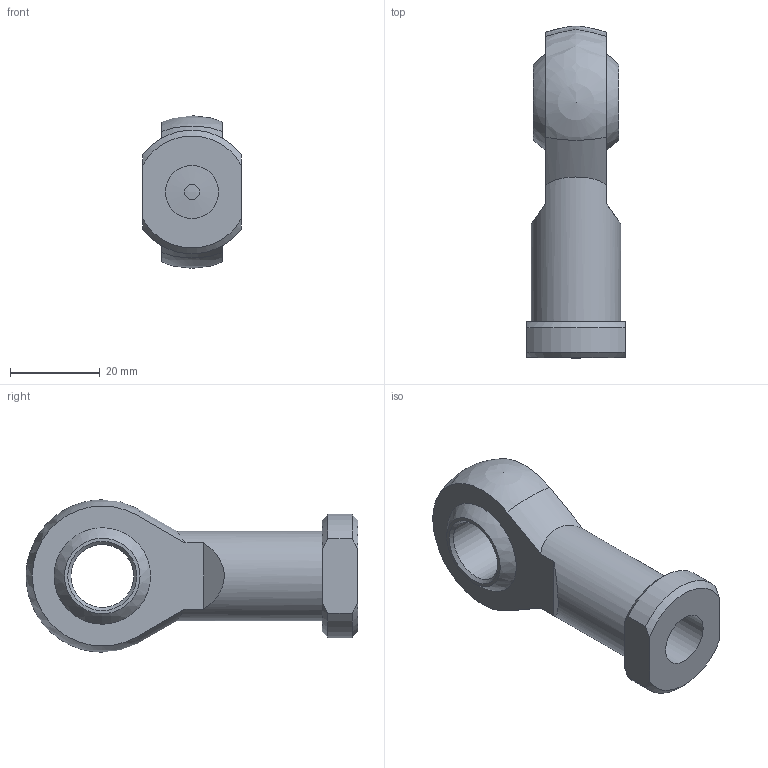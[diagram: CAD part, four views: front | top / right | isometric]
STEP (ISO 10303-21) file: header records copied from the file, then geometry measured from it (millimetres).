
FILE_DESCRIPTION(/* description */ ('Unknown'),/* implementation_level */ '2;1');
FILE_NAME(/* name */ 'WK40_WK50_J',/* time_stamp */ '2026-07-17T16:40:10+08:00',/* author */ ('Unknown'),/* organization */ ('Unknown'),/* preprocessor_version */ 'ST-DEVELOPER v16.7',/* originating_system */ 'DEX',/* authorisation */ $);
FILE_SCHEMA (('CONFIG_CONTROL_DESIGN'));
Length unit declared in the file: millimetre
Products named in the file (1): WK40_WK50_J
Bounding box: 22 x 74 x 34 mm (x, y, z)
Volume: 21440.9 mm3; surface area: 8059.9 mm2
Topology: 1 solids, 1 shells, 29 faces, 66 edges, 44 vertices
Faces by surface type: plane 10, cylinder 8, cone 7, sphere 4
Full cylindrical faces by diameter (mm): 3.375 x1, 11.835 x1, 14 x1, 20 x1
Entity records: 794 total; most frequent: CARTESIAN_POINT 154, DIRECTION 132, ORIENTED_EDGE 110, AXIS2_PLACEMENT_3D 57, EDGE_CURVE 55, EDGE_LOOP 44, FACE_BOUND 44, VERTEX_POINT 41
